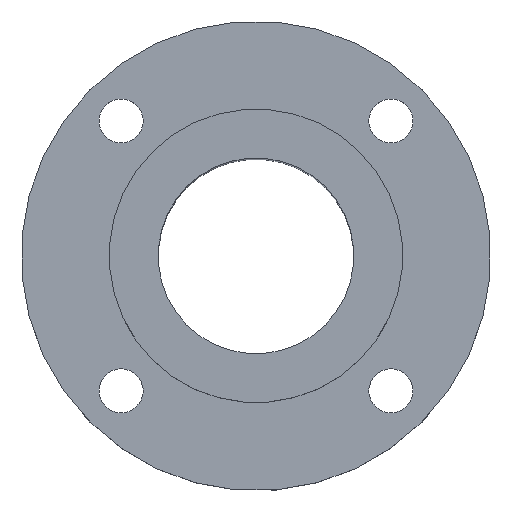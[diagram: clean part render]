
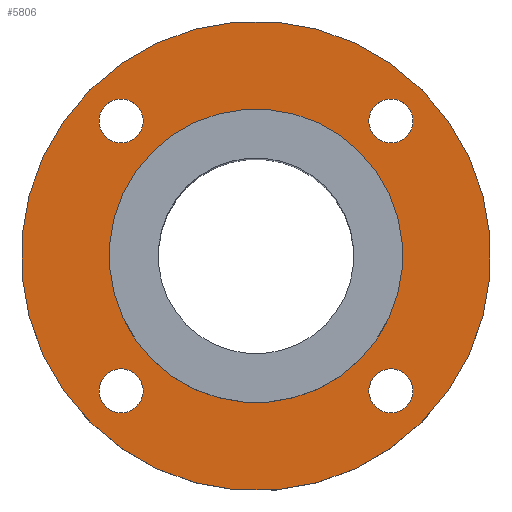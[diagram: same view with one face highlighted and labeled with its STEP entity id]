
A CAD part, top view. The second image highlights one B-rep face of the part: STEP entity #5806.
In plain terms, the highlighted planar face has unit normal (0, 0, 1).
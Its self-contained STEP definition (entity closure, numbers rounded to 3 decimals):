
#110=CIRCLE('',#6173,30.);
#114=CIRCLE('',#6181,48.);
#115=CIRCLE('',#6183,4.5);
#116=CIRCLE('',#6184,4.5);
#117=CIRCLE('',#6185,4.5);
#118=CIRCLE('',#6186,4.5);
#515=ORIENTED_EDGE('',*,*,#2177,.F.);
#516=ORIENTED_EDGE('',*,*,#2178,.F.);
#517=ORIENTED_EDGE('',*,*,#2179,.F.);
#518=ORIENTED_EDGE('',*,*,#2180,.F.);
#519=ORIENTED_EDGE('',*,*,#2172,.T.);
#520=ORIENTED_EDGE('',*,*,#2176,.T.);
#2172=EDGE_CURVE('',#3006,#3006,#110,.F.);
#2176=EDGE_CURVE('',#3010,#3010,#114,.T.);
#2177=EDGE_CURVE('',#3011,#3011,#115,.T.);
#2178=EDGE_CURVE('',#3012,#3012,#116,.T.);
#2179=EDGE_CURVE('',#3013,#3013,#117,.T.);
#2180=EDGE_CURVE('',#3014,#3014,#118,.T.);
#3006=VERTEX_POINT('',#9143);
#3010=VERTEX_POINT('',#9155);
#3011=VERTEX_POINT('',#9158);
#3012=VERTEX_POINT('',#9160);
#3013=VERTEX_POINT('',#9162);
#3014=VERTEX_POINT('',#9164);
#4748=EDGE_LOOP('',(#515));
#4749=EDGE_LOOP('',(#516));
#4750=EDGE_LOOP('',(#517));
#4751=EDGE_LOOP('',(#518));
#4752=EDGE_LOOP('',(#519));
#4753=EDGE_LOOP('',(#520));
#5170=FACE_BOUND('',#4748,.T.);
#5171=FACE_BOUND('',#4749,.T.);
#5172=FACE_BOUND('',#4750,.T.);
#5173=FACE_BOUND('',#4751,.T.);
#5174=FACE_BOUND('',#4752,.T.);
#5175=FACE_BOUND('',#4753,.T.);
#5534=PLANE('',#6182);
#5806=ADVANCED_FACE('',(#5170,#5171,#5172,#5173,#5174,#5175),#5534,.T.);
#6173=AXIS2_PLACEMENT_3D('',#9142,#6710,#6711);
#6181=AXIS2_PLACEMENT_3D('',#9154,#6726,#6727);
#6182=AXIS2_PLACEMENT_3D('',#9156,#6728,#6729);
#6183=AXIS2_PLACEMENT_3D('',#9157,#6730,#6731);
#6184=AXIS2_PLACEMENT_3D('',#9159,#6732,#6733);
#6185=AXIS2_PLACEMENT_3D('',#9161,#6734,#6735);
#6186=AXIS2_PLACEMENT_3D('',#9163,#6736,#6737);
#6710=DIRECTION('',(0.,0.,1.));
#6711=DIRECTION('',(0.707,-0.707,0.));
#6726=DIRECTION('',(0.,0.,1.));
#6727=DIRECTION('',(0.707,-0.707,0.));
#6728=DIRECTION('',(0.,0.,1.));
#6729=DIRECTION('',(0.707,-0.707,0.));
#6730=DIRECTION('',(0.,0.,1.));
#6731=DIRECTION('',(0.707,-0.707,0.));
#6732=DIRECTION('',(0.,0.,1.));
#6733=DIRECTION('',(0.707,-0.707,0.));
#6734=DIRECTION('',(0.,0.,1.));
#6735=DIRECTION('',(0.707,-0.707,0.));
#6736=DIRECTION('',(0.,0.,1.));
#6737=DIRECTION('',(0.707,-0.707,0.));
#9142=CARTESIAN_POINT('',(0.,0.,0.));
#9143=CARTESIAN_POINT('',(21.213,-21.213,0.));
#9154=CARTESIAN_POINT('',(0.,0.,0.));
#9155=CARTESIAN_POINT('',(33.941,-33.941,0.));
#9156=CARTESIAN_POINT('',(0.,0.,0.));
#9157=CARTESIAN_POINT('',(27.577,27.577,0.));
#9158=CARTESIAN_POINT('',(30.759,24.395,0.));
#9159=CARTESIAN_POINT('',(-27.577,27.577,0.));
#9160=CARTESIAN_POINT('',(-24.395,24.395,0.));
#9161=CARTESIAN_POINT('',(-27.577,-27.577,0.));
#9162=CARTESIAN_POINT('',(-24.395,-30.759,0.));
#9163=CARTESIAN_POINT('',(27.577,-27.577,0.));
#9164=CARTESIAN_POINT('',(30.759,-30.759,0.));
